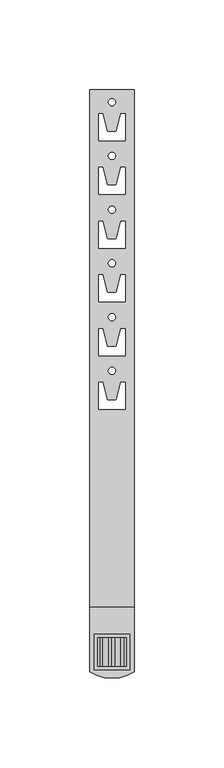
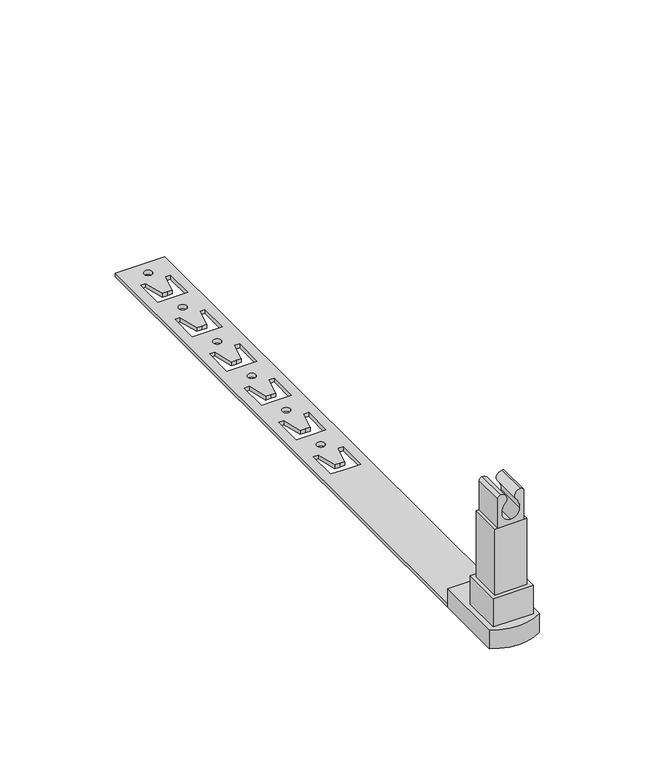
"""IFC4 building model written with IfcOpenShell, lengths in millimetres: proxy geometry, КНС_ДержательПластиковыйПодЧерепицу_DKC : ND2214_Горячеоцинкованная сталь_330 мм."""

from ifc_helpers import new_model, si_unit, point, frame, frame_2d, origin, origin_with_axes, place, context, project, spatial, polyline, circle_curve, trimmed, segment, composite_curve, outline, extrude, source, transform, mapped, element, save


def security_devices_3d68f758(model_context):
    return source(origin(), model_context, "Body", "SweptSolid", [
        extrude(outline(composite_curve([segment(polyline([(60.0, -6.5293889), (60.0, 6.5293889), (75.482262, 6.5293889)]), True, "CONTINUOUS"), segment(trimmed(circle_curve(frame_2d((75.482262, 5.0116508)), 1.517738), [point((75.482262, 6.5293889))], [point((77.0, 5.0116508))], False, "CARTESIAN"), True, "CONTINUOUS"), segment(trimmed(circle_curve(frame_2d((73.9480635, 5.0116508)), 3.0519365), [point((77.0, 5.0116508))], [point((72.7845702, 2.1901974))], False, "CARTESIAN"), True, "CONTINUOUS"), segment(trimmed(circle_curve(frame_2d((67.0, -3.6308466)), 8.206449), [point((72.7845702, 2.1901974))], [point((67.0, 4.5756024))], True, "CARTESIAN"), True, "CONTINUOUS"), segment(trimmed(circle_curve(frame_2d((67.0, 0.0)), 4.5756024), [point((67.0, 4.5756024))], [point((62.4243976, 0.0))], True, "CARTESIAN"), True, "CONTINUOUS"), segment(trimmed(circle_curve(frame_2d((67.0, 0.0)), 4.5756024), [point((62.4243976, 0.0))], [point((67.0, -4.5756024))], True, "CARTESIAN"), True, "CONTINUOUS"), segment(trimmed(circle_curve(frame_2d((67.0, 3.6308466)), 8.206449), [point((67.0, -4.5756024))], [point((72.7845702, -2.1901974))], True, "CARTESIAN"), True, "CONTINUOUS"), segment(trimmed(circle_curve(frame_2d((73.9480635, -5.0116508)), 3.0519365), [point((72.7845702, -2.1901974))], [point((77.0, -5.0116508))], False, "CARTESIAN"), True, "CONTINUOUS"), segment(trimmed(circle_curve(frame_2d((75.482262, -5.0116508)), 1.517738), [point((77.0, -5.0116508))], [point((75.482262, -6.5293889))], False, "CARTESIAN"), True, "CONTINUOUS"), segment(polyline([(75.482262, -6.5293889), (60.0, -6.5293889)]), True, "CONTINUOUS")], self_intersect=False)), frame((0.0, 8.0, 0.0), z_axis=(0.0, 1.0, 0.0), x_axis=(0.0, 0.0, 1.0)), (0.0, 0.0, 1.0), 16.0),
        extrude(outline(polyline([(8.0, 24.0), (8.0, 8.0), (-8.0, 8.0), (-8.0, 24.0), (8.0, 24.0)])), frame((0.0, 0.0, 25.0), z_axis=(0.0, 0.0, 1.0), x_axis=(1.0, 0.0, 0.0)), (0.0, 0.0, 1.0), 35.0),
        extrude(outline(polyline([(10.0, 26.0), (10.0, 6.0), (-10.0, 6.0), (-10.0, 26.0), (10.0, 26.0)])), frame((0.0, 0.0, 10.0), z_axis=(0.0, 0.0, 1.0), x_axis=(1.0, 0.0, 0.0)), (0.0, 0.0, 1.0), 15.0),
        extrude(outline(composite_curve([segment(trimmed(circle_curve(frame_2d((0.0, 24.125)), 22.8476613), [point((12.5, 5.0))], [point((-12.5, 5.0))], False, "CARTESIAN"), True, "CONTINUOUS"), segment(polyline([(-12.5, 5.0), (-12.5, 41.0), (12.5, 41.0), (12.5, 5.0)]), True, "CONTINUOUS")], self_intersect=False)), origin_with_axes(), (0.0, 0.0, 1.0), 10.0),
        extrude(outline(polyline([(12.5, 330.0), (12.5, 41.0), (-12.5, 41.0), (-12.5, 330.0), (12.5, 330.0)]), holes=[composite_curve([segment(trimmed(circle_curve(frame_2d((0.0, 322.9763791)), 2.0), [point((-2.0, 322.9763791))], [point((2.0, 322.9763791))], True, "CARTESIAN"), True, "CONTINUOUS"), segment(trimmed(circle_curve(frame_2d((0.0, 322.9763791)), 2.0), [point((2.0, 322.9763791))], [point((-2.0, 322.9763791))], True, "CARTESIAN"), True, "CONTINUOUS")], self_intersect=False), polyline([(-7.5, 301.5), (0.0, 301.5), (7.5, 301.5), (7.5, 316.5981413), (5.0452497, 316.5981413), (2.5276553, 306.5), (0.0, 306.5), (-2.5276553, 306.5), (-5.0452497, 316.5981413), (-7.5, 316.5981413), (-7.5, 301.5)]), composite_curve([segment(trimmed(circle_curve(frame_2d((0.0, 292.9763791)), 2.0), [point((-2.0, 292.9763791))], [point((2.0, 292.9763791))], True, "CARTESIAN"), True, "CONTINUOUS"), segment(trimmed(circle_curve(frame_2d((0.0, 292.9763791)), 2.0), [point((2.0, 292.9763791))], [point((-2.0, 292.9763791))], True, "CARTESIAN"), True, "CONTINUOUS")], self_intersect=False), polyline([(-7.5, 271.5), (0.0, 271.5), (7.5, 271.5), (7.5, 286.5981413), (5.0452497, 286.5981413), (2.5276553, 276.5), (0.0, 276.5), (-2.5276553, 276.5), (-5.0452497, 286.5981413), (-7.5, 286.5981413), (-7.5, 271.5)]), composite_curve([segment(trimmed(circle_curve(frame_2d((0.0, 262.9763791)), 2.0), [point((-2.0, 262.9763791))], [point((2.0, 262.9763791))], True, "CARTESIAN"), True, "CONTINUOUS"), segment(trimmed(circle_curve(frame_2d((0.0, 262.9763791)), 2.0), [point((2.0, 262.9763791))], [point((-2.0, 262.9763791))], True, "CARTESIAN"), True, "CONTINUOUS")], self_intersect=False), polyline([(-7.5, 241.5), (0.0, 241.5), (7.5, 241.5), (7.5, 256.5981413), (5.0452497, 256.5981413), (2.5276553, 246.5), (0.0, 246.5), (-2.5276553, 246.5), (-5.0452497, 256.5981413), (-7.5, 256.5981413), (-7.5, 241.5)]), composite_curve([segment(trimmed(circle_curve(frame_2d((0.0, 232.9763791)), 2.0), [point((-2.0, 232.9763791))], [point((2.0, 232.9763791))], True, "CARTESIAN"), True, "CONTINUOUS"), segment(trimmed(circle_curve(frame_2d((0.0, 232.9763791)), 2.0), [point((2.0, 232.9763791))], [point((-2.0, 232.9763791))], True, "CARTESIAN"), True, "CONTINUOUS")], self_intersect=False), polyline([(-7.5, 211.5), (0.0, 211.5), (7.5, 211.5), (7.5, 226.5981413), (5.0452497, 226.5981413), (2.5276553, 216.5), (0.0, 216.5), (-2.5276553, 216.5), (-5.0452497, 226.5981413), (-7.5, 226.5981413), (-7.5, 211.5)]), composite_curve([segment(trimmed(circle_curve(frame_2d((0.0, 202.9763791)), 2.0), [point((-2.0, 202.9763791))], [point((2.0, 202.9763791))], True, "CARTESIAN"), True, "CONTINUOUS"), segment(trimmed(circle_curve(frame_2d((0.0, 202.9763791)), 2.0), [point((2.0, 202.9763791))], [point((-2.0, 202.9763791))], True, "CARTESIAN"), True, "CONTINUOUS")], self_intersect=False), polyline([(-7.5, 181.5), (0.0, 181.5), (7.5, 181.5), (7.5, 196.5981413), (5.0452497, 196.5981413), (2.5276553, 186.5), (0.0, 186.5), (-2.5276553, 186.5), (-5.0452497, 196.5981413), (-7.5, 196.5981413), (-7.5, 181.5)]), composite_curve([segment(trimmed(circle_curve(frame_2d((0.0, 172.9763791)), 2.0), [point((-2.0, 172.9763791))], [point((2.0, 172.9763791))], True, "CARTESIAN"), True, "CONTINUOUS"), segment(trimmed(circle_curve(frame_2d((0.0, 172.9763791)), 2.0), [point((2.0, 172.9763791))], [point((-2.0, 172.9763791))], True, "CARTESIAN"), True, "CONTINUOUS")], self_intersect=False), polyline([(-7.5, 151.5), (0.0, 151.5), (7.5, 151.5), (7.5, 166.5981413), (5.0452497, 166.5981413), (2.5276553, 156.5), (0.0, 156.5), (-2.5276553, 156.5), (-5.0452497, 166.5981413), (-7.5, 166.5981413), (-7.5, 151.5)])]), origin_with_axes(), (0.0, 0.0, 1.0), 2.0),
    ])


if __name__ == "__main__":
    model = new_model("IFC4")
    model_context = context("Model", 3, world=origin())
    ifc_project = project(units=[si_unit("LENGTHUNIT", "METRE", prefix="MILLI")], contexts=[model_context])
    site = spatial("IfcSite", under=ifc_project)
    building = spatial("IfcBuilding", under=site)
    placement = place(None, origin())
    security_devices_shape = security_devices_3d68f758(model_context)
    element("IfcBuildingElementProxy", 1, Name="КНС_ДержательПластиковыйПодЧерепицу_DKC : ND2214_Горячеоцинкованная сталь_330 мм", ObjectType="КНС_ДержательПластиковыйПодЧерепицу_DKC : ND2214_Горячеоцинкованная сталь_330 мм", at=placement, inside=building, context=model_context, shape_type="MappedRepresentation", body=[
        mapped(security_devices_shape, transform((0.0, 0.0, 0.0), x_axis=(1.0, 0.0, 0.0), y_axis=(0.0, 1.0, 0.0), z_axis=(0.0, 0.0, 1.0))),
    ])
    save(model, "model.ifc")
